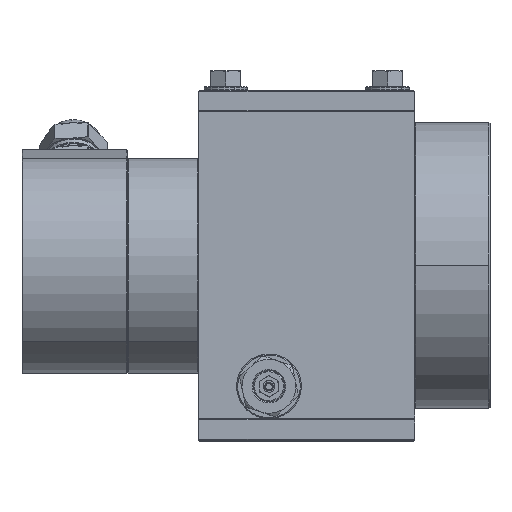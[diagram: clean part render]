
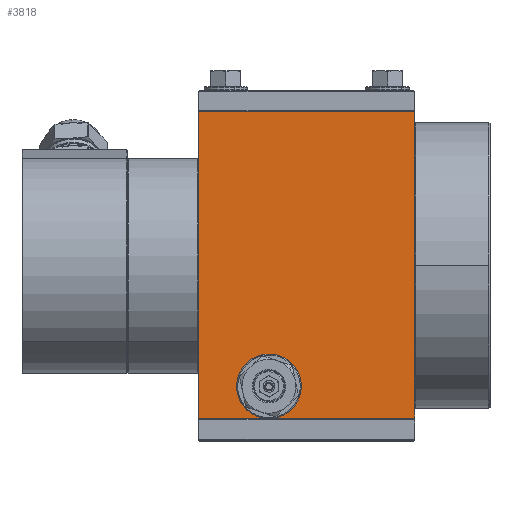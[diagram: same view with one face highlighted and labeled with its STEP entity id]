
A CAD part, top view. The second image highlights one B-rep face of the part: STEP entity #3818.
In plain terms, the highlighted planar face has unit normal (0, 0, 1).
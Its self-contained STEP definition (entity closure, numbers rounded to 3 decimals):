
#300 = DIRECTION ( 'NONE',  ( -1., 0., 0. ) ) ;
#552 = EDGE_CURVE ( 'NONE', #10568, #34573, #36951, .T. ) ;
#3164 = EDGE_CURVE ( 'NONE', #11155, #20709, #12566, .T. ) ;
#3259 = ORIENTED_EDGE ( 'NONE', *, *, #16294, .T. ) ;
#3615 = DIRECTION ( 'NONE',  ( 0., -1., 0. ) ) ;
#3818 = ADVANCED_FACE ( 'NONE', ( #11320, #22944 ), #7923, .F. ) ;
#4038 = CARTESIAN_POINT ( 'NONE',  ( -20., 61., 30. ) ) ;
#4175 = VECTOR ( 'NONE', #17329, 1000. ) ;
#4413 = VERTEX_POINT ( 'NONE', #26904 ) ;
#5832 = DIRECTION ( 'NONE',  ( 0., 0., -1. ) ) ;
#5921 = AXIS2_PLACEMENT_3D ( 'NONE', #15611, #16022, #20976 ) ;
#5953 = VECTOR ( 'NONE', #7369, 1000. ) ;
#6124 = EDGE_CURVE ( 'NONE', #17224, #33683, #29373, .T. ) ;
#6379 = DIRECTION ( 'NONE',  ( 1., 0., 0. ) ) ;
#7369 = DIRECTION ( 'NONE',  ( 1., 0., 0. ) ) ;
#7834 = VERTEX_POINT ( 'NONE', #9220 ) ;
#7923 = PLANE ( 'NONE',  #20168 ) ;
#7999 = ORIENTED_EDGE ( 'NONE', *, *, #6124, .T. ) ;
#9220 = CARTESIAN_POINT ( 'NONE',  ( 20., 4., 30. ) ) ;
#9344 = DIRECTION ( 'NONE',  ( 0., -1., 0. ) ) ;
#9520 = EDGE_CURVE ( 'NONE', #34573, #10568, #12065, .T. ) ;
#10071 = CARTESIAN_POINT ( 'NONE',  ( -20., 4., 30. ) ) ;
#10249 = CARTESIAN_POINT ( 'NONE',  ( 19.8, 4., 30. ) ) ;
#10568 = VERTEX_POINT ( 'NONE', #27535 ) ;
#11155 = VERTEX_POINT ( 'NONE', #4038 ) ;
#11320 = FACE_BOUND ( 'NONE', #29325, .T. ) ;
#11386 = CARTESIAN_POINT ( 'NONE',  ( -19.8, 4., 30. ) ) ;
#12065 = CIRCLE ( 'NONE', #33461, 4.55 ) ;
#12566 = LINE ( 'NONE', #15070, #30270 ) ;
#14264 = LINE ( 'NONE', #31827, #4175 ) ;
#15070 = CARTESIAN_POINT ( 'NONE',  ( -20., 61., 30. ) ) ;
#15132 = CARTESIAN_POINT ( 'NONE',  ( 20., 61., 30. ) ) ;
#15337 = LINE ( 'NONE', #15132, #36885 ) ;
#15611 = CARTESIAN_POINT ( 'NONE',  ( -7., 10., 30. ) ) ;
#16022 = DIRECTION ( 'NONE',  ( 0., 0., -1. ) ) ;
#16294 = EDGE_CURVE ( 'NONE', #33683, #7834, #14264, .T. ) ;
#16349 = CARTESIAN_POINT ( 'NONE',  ( 20., 4., 30. ) ) ;
#17224 = VERTEX_POINT ( 'NONE', #11386 ) ;
#17314 = VECTOR ( 'NONE', #3615, 1000. ) ;
#17329 = DIRECTION ( 'NONE',  ( 1., 0., 0. ) ) ;
#18059 = CARTESIAN_POINT ( 'NONE',  ( 20., 61., 30. ) ) ;
#18763 = ORIENTED_EDGE ( 'NONE', *, *, #9520, .T. ) ;
#20097 = CARTESIAN_POINT ( 'NONE',  ( 20., 4., 30. ) ) ;
#20168 = AXIS2_PLACEMENT_3D ( 'NONE', #20516, #5832, #300 ) ;
#20516 = CARTESIAN_POINT ( 'NONE',  ( 20., 61., 30. ) ) ;
#20709 = VERTEX_POINT ( 'NONE', #10071 ) ;
#20976 = DIRECTION ( 'NONE',  ( 0.383, -0.924, 0. ) ) ;
#21853 = LINE ( 'NONE', #16349, #5953 ) ;
#22484 = EDGE_CURVE ( 'NONE', #20709, #17224, #21853, .T. ) ;
#22944 = FACE_OUTER_BOUND ( 'NONE', #28370, .T. ) ;
#25701 = CARTESIAN_POINT ( 'NONE',  ( -5.257, 5.797, 30. ) ) ;
#25903 = CARTESIAN_POINT ( 'NONE',  ( -7., 10., 30. ) ) ;
#26245 = EDGE_CURVE ( 'NONE', #4413, #7834, #26815, .T. ) ;
#26815 = LINE ( 'NONE', #18059, #17314 ) ;
#26904 = CARTESIAN_POINT ( 'NONE',  ( 20., 61., 30. ) ) ;
#27535 = CARTESIAN_POINT ( 'NONE',  ( -8.743, 14.203, 30. ) ) ;
#28370 = EDGE_LOOP ( 'NONE', ( #29170, #7999, #3259, #33019, #29454, #30161 ) ) ;
#28886 = ORIENTED_EDGE ( 'NONE', *, *, #552, .T. ) ;
#29170 = ORIENTED_EDGE ( 'NONE', *, *, #22484, .T. ) ;
#29325 = EDGE_LOOP ( 'NONE', ( #28886, #18763 ) ) ;
#29373 = LINE ( 'NONE', #20097, #29815 ) ;
#29454 = ORIENTED_EDGE ( 'NONE', *, *, #34158, .F. ) ;
#29815 = VECTOR ( 'NONE', #34761, 1000. ) ;
#30161 = ORIENTED_EDGE ( 'NONE', *, *, #3164, .T. ) ;
#30270 = VECTOR ( 'NONE', #9344, 1000. ) ;
#31270 = DIRECTION ( 'NONE',  ( 0.383, -0.924, 0. ) ) ;
#31827 = CARTESIAN_POINT ( 'NONE',  ( 20., 4., 30. ) ) ;
#33019 = ORIENTED_EDGE ( 'NONE', *, *, #26245, .F. ) ;
#33461 = AXIS2_PLACEMENT_3D ( 'NONE', #25903, #33775, #31270 ) ;
#33683 = VERTEX_POINT ( 'NONE', #10249 ) ;
#33775 = DIRECTION ( 'NONE',  ( 0., 0., -1. ) ) ;
#34158 = EDGE_CURVE ( 'NONE', #11155, #4413, #15337, .T. ) ;
#34573 = VERTEX_POINT ( 'NONE', #25701 ) ;
#34761 = DIRECTION ( 'NONE',  ( 1., 0., 0. ) ) ;
#36885 = VECTOR ( 'NONE', #6379, 1000. ) ;
#36951 = CIRCLE ( 'NONE', #5921, 4.55 ) ;
